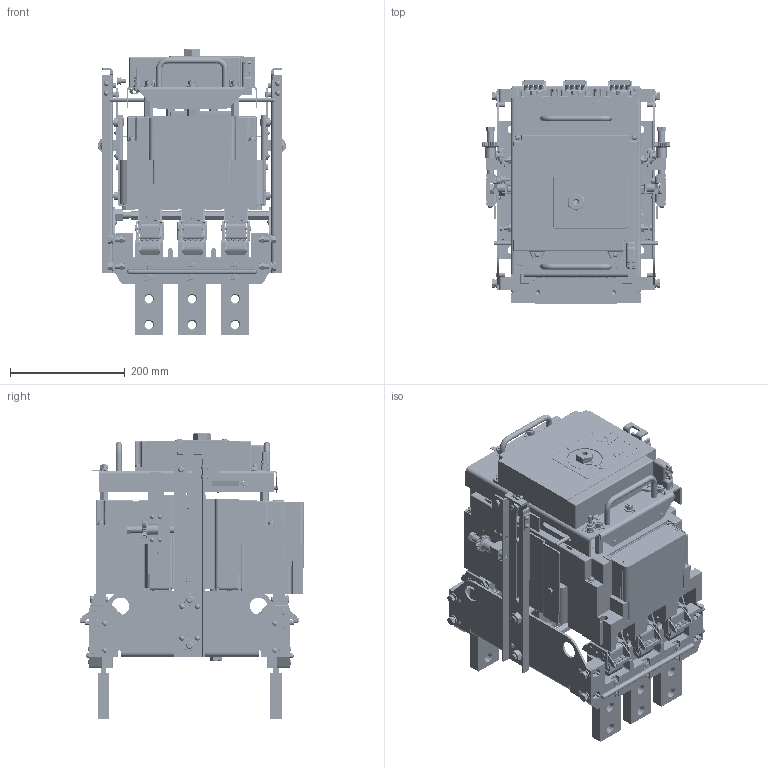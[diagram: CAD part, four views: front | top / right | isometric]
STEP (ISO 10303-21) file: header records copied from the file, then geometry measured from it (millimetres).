
FILE_DESCRIPTION (( 'STEP AP203' ), '1' );
FILE_NAME ('ÂÀ 55-41 ÂÈ ñ ÝÌÏ.STEP', '2016-09-28T11:21:59', ( 'admin' ), ( '' ), 'SwSTEP 2.0', 'SolidWorks 2012', '' );
FILE_SCHEMA (( 'CONFIG_CONTROL_DESIGN' ));
Products named in the file (1): ÂÀ 55-41 ÂÈ ñ ÝÌÏ
Bounding box: 327.99 x 389.91 x 496.1 mm (x, y, z)
Volume: 15022647.5 mm3; surface area: 3075572.9 mm2
Topology: 607 solids, 609 shells, 19763 faces, 49717 edges, 31682 vertices
Faces by surface type: plane 9249, cylinder 6431, bspline 1704, cone 1473, torus 650, sphere 256
Entity records: 866317 total; most frequent: CARTESIAN_POINT 397314, ORIENTED_EDGE 99178, DIRECTION 94873, EDGE_CURVE 49589, AXIS2_PLACEMENT_3D 33852, VERTEX_POINT 31682, VECTOR 27169, LINE 27169
